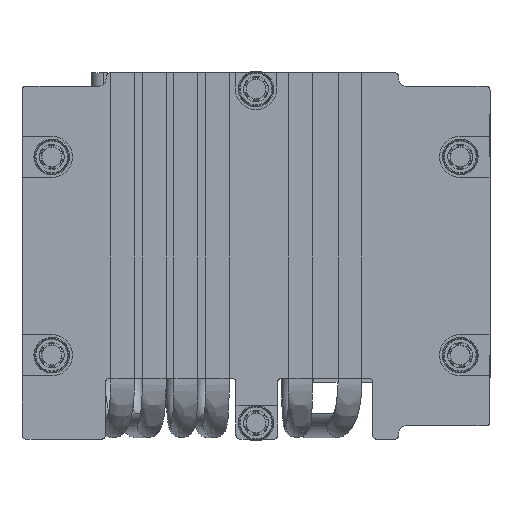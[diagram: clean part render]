
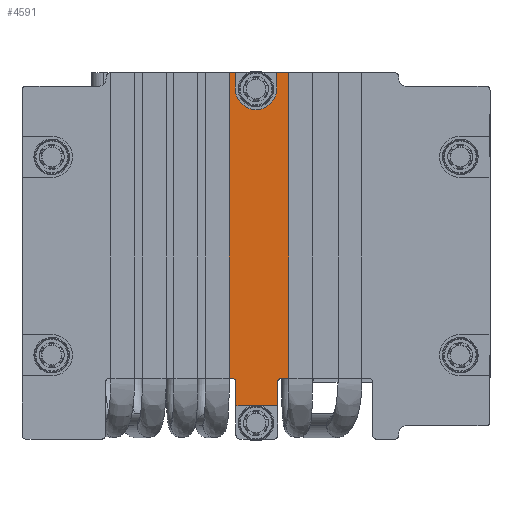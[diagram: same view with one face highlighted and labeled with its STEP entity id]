
A CAD part, front view. The second image highlights one B-rep face of the part: STEP entity #4591.
In plain terms, the highlighted planar face has unit normal (0, -1, 0).
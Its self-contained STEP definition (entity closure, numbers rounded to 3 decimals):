
#950 = ORIENTED_EDGE ( 'NONE', *, *, #14252, .F. ) ;
#951 = CARTESIAN_POINT ( 'NONE',  ( -5.05, 0., -37.72 ) ) ;
#1044 = DIRECTION ( 'NONE',  ( 0., 0., -1. ) ) ;
#1119 = LINE ( 'NONE', #5024, #36862 ) ;
#1161 = VERTEX_POINT ( 'NONE', #31158 ) ;
#1169 = DIRECTION ( 'NONE',  ( 0., 0., 1. ) ) ;
#1564 = CARTESIAN_POINT ( 'NONE',  ( 29.4, 0., -30.8 ) ) ;
#1609 = CARTESIAN_POINT ( 'NONE',  ( -5.05, 0., -30.8 ) ) ;
#1772 = ORIENTED_EDGE ( 'NONE', *, *, #8098, .T. ) ;
#2316 = VERTEX_POINT ( 'NONE', #39050 ) ;
#2779 = ORIENTED_EDGE ( 'NONE', *, *, #21085, .T. ) ;
#3386 = AXIS2_PLACEMENT_3D ( 'NONE', #16805, #28724, #1169 ) ;
#3418 = CARTESIAN_POINT ( 'NONE',  ( -5.05, 0., -46.2 ) ) ;
#3436 = CARTESIAN_POINT ( 'NONE',  ( -5.2, 0., 42.1 ) ) ;
#3973 = LINE ( 'NONE', #20565, #28714 ) ;
#4069 = CARTESIAN_POINT ( 'NONE',  ( -5.05, 0., -37.72 ) ) ;
#4591 = ADVANCED_FACE ( 'NONE', ( #23508 ), #35440, .F. ) ;
#5024 = CARTESIAN_POINT ( 'NONE',  ( 8.25, 0., 46.2 ) ) ;
#5308 = VERTEX_POINT ( 'NONE', #30166 ) ;
#7145 = ORIENTED_EDGE ( 'NONE', *, *, #27786, .T. ) ;
#7352 = LINE ( 'NONE', #4069, #38579 ) ;
#7481 = CARTESIAN_POINT ( 'NONE',  ( 0., 0., 0. ) ) ;
#7584 = ORIENTED_EDGE ( 'NONE', *, *, #25238, .F. ) ;
#7814 = DIRECTION ( 'NONE',  ( 0., -1., 0. ) ) ;
#7942 = AXIS2_PLACEMENT_3D ( 'NONE', #7481, #32370, #23715 ) ;
#8060 = CARTESIAN_POINT ( 'NONE',  ( 5.45, 0., -31.8 ) ) ;
#8098 = EDGE_CURVE ( 'NONE', #30786, #38234, #1119, .T. ) ;
#8744 = VECTOR ( 'NONE', #29320, 1000. ) ;
#10059 = EDGE_CURVE ( 'NONE', #11589, #1161, #3973, .T. ) ;
#10078 = VECTOR ( 'NONE', #31252, 1000. ) ;
#10306 = DIRECTION ( 'NONE',  ( 0., 0., 1. ) ) ;
#10507 = CARTESIAN_POINT ( 'NONE',  ( 0., 0., 42.1 ) ) ;
#10544 = DIRECTION ( 'NONE',  ( 0., 0., -1. ) ) ;
#10634 = DIRECTION ( 'NONE',  ( -1., 0., 0. ) ) ;
#10672 = VERTEX_POINT ( 'NONE', #25828 ) ;
#11032 = CARTESIAN_POINT ( 'NONE',  ( 5.2, 0., 42.1 ) ) ;
#11122 = ORIENTED_EDGE ( 'NONE', *, *, #37925, .F. ) ;
#11589 = VERTEX_POINT ( 'NONE', #22235 ) ;
#11766 = VECTOR ( 'NONE', #37529, 1000. ) ;
#12002 = VERTEX_POINT ( 'NONE', #31383 ) ;
#12329 = CARTESIAN_POINT ( 'NONE',  ( -59., 0., 46.2 ) ) ;
#12717 = ORIENTED_EDGE ( 'NONE', *, *, #15083, .T. ) ;
#12735 = EDGE_CURVE ( 'NONE', #2316, #35227, #22313, .T. ) ;
#12755 = DIRECTION ( 'NONE',  ( 0., -1., 0. ) ) ;
#12809 = DIRECTION ( 'NONE',  ( 0., 1., 0. ) ) ;
#14252 = EDGE_CURVE ( 'NONE', #10672, #38234, #38964, .T. ) ;
#14301 = CARTESIAN_POINT ( 'NONE',  ( 8.25, 0., -30.8 ) ) ;
#14473 = CARTESIAN_POINT ( 'NONE',  ( 5.45, 0., -46.2 ) ) ;
#14841 = VECTOR ( 'NONE', #22413, 1000. ) ;
#15083 = EDGE_CURVE ( 'NONE', #5308, #25940, #23727, .T. ) ;
#16020 = CARTESIAN_POINT ( 'NONE',  ( 8.25, 0., 46.2 ) ) ;
#16371 = ORIENTED_EDGE ( 'NONE', *, *, #31481, .T. ) ;
#16805 = CARTESIAN_POINT ( 'NONE',  ( 6.45, 0., -31.8 ) ) ;
#16839 = VECTOR ( 'NONE', #36251, 1000. ) ;
#17610 = EDGE_CURVE ( 'NONE', #25940, #32007, #33566, .T. ) ;
#18250 = ORIENTED_EDGE ( 'NONE', *, *, #28313, .F. ) ;
#19099 = DIRECTION ( 'NONE',  ( 0., 0., -1. ) ) ;
#20534 = DIRECTION ( 'NONE',  ( 1., 0., 0. ) ) ;
#20565 = CARTESIAN_POINT ( 'NONE',  ( -6.75, 0., 46.2 ) ) ;
#21085 = EDGE_CURVE ( 'NONE', #38856, #12002, #34073, .T. ) ;
#21279 = EDGE_CURVE ( 'NONE', #12002, #38776, #25014, .T. ) ;
#21919 = CARTESIAN_POINT ( 'NONE',  ( 0., 0., 36.9 ) ) ;
#22211 = ORIENTED_EDGE ( 'NONE', *, *, #35897, .F. ) ;
#22235 = CARTESIAN_POINT ( 'NONE',  ( -6.75, 0., 46.2 ) ) ;
#22313 = CIRCLE ( 'NONE', #26234, 5.2 ) ;
#22413 = DIRECTION ( 'NONE',  ( 1., 0., 0. ) ) ;
#22659 = CARTESIAN_POINT ( 'NONE',  ( -6.05, 0., -31.8 ) ) ;
#22958 = DIRECTION ( 'NONE',  ( 0., 0., -1. ) ) ;
#23333 = VECTOR ( 'NONE', #22958, 1000. ) ;
#23508 = FACE_OUTER_BOUND ( 'NONE', #38357, .T. ) ;
#23555 = CARTESIAN_POINT ( 'NONE',  ( -59., 0., 46.2 ) ) ;
#23648 = CIRCLE ( 'NONE', #28220, 5.2 ) ;
#23715 = DIRECTION ( 'NONE',  ( 0., 0., 1. ) ) ;
#23727 = LINE ( 'NONE', #14473, #16839 ) ;
#23734 = VECTOR ( 'NONE', #20534, 1000. ) ;
#25014 = LINE ( 'NONE', #3418, #11766 ) ;
#25238 = EDGE_CURVE ( 'NONE', #5308, #38776, #7352, .T. ) ;
#25269 = VERTEX_POINT ( 'NONE', #11032 ) ;
#25427 = LINE ( 'NONE', #3436, #23333 ) ;
#25485 = LINE ( 'NONE', #40290, #10078 ) ;
#25828 = CARTESIAN_POINT ( 'NONE',  ( 5.2, 0., 46.2 ) ) ;
#25940 = VERTEX_POINT ( 'NONE', #8060 ) ;
#26234 = AXIS2_PLACEMENT_3D ( 'NONE', #37778, #12755, #19099 ) ;
#27348 = VERTEX_POINT ( 'NONE', #33547 ) ;
#27786 = EDGE_CURVE ( 'NONE', #32007, #30786, #33203, .T. ) ;
#28141 = DIRECTION ( 'NONE',  ( 1., 0., 0. ) ) ;
#28220 = AXIS2_PLACEMENT_3D ( 'NONE', #10507, #7814, #1044 ) ;
#28313 = EDGE_CURVE ( 'NONE', #25269, #10672, #25485, .T. ) ;
#28714 = VECTOR ( 'NONE', #10544, 1000. ) ;
#28724 = DIRECTION ( 'NONE',  ( 0., 1., 0. ) ) ;
#29320 = DIRECTION ( 'NONE',  ( 1., 0., 0. ) ) ;
#29771 = LINE ( 'NONE', #1609, #23734 ) ;
#30166 = CARTESIAN_POINT ( 'NONE',  ( 5.45, 0., -37.72 ) ) ;
#30276 = ORIENTED_EDGE ( 'NONE', *, *, #30563, .F. ) ;
#30563 = EDGE_CURVE ( 'NONE', #27348, #2316, #25427, .T. ) ;
#30786 = VERTEX_POINT ( 'NONE', #14301 ) ;
#31158 = CARTESIAN_POINT ( 'NONE',  ( -6.75, 0., -30.8 ) ) ;
#31252 = DIRECTION ( 'NONE',  ( 0., 0., 1. ) ) ;
#31383 = CARTESIAN_POINT ( 'NONE',  ( -5.05, 0., -31.8 ) ) ;
#31481 = EDGE_CURVE ( 'NONE', #1161, #38856, #29771, .T. ) ;
#32007 = VERTEX_POINT ( 'NONE', #35830 ) ;
#32370 = DIRECTION ( 'NONE',  ( 0., 1., 0. ) ) ;
#32982 = DIRECTION ( 'NONE',  ( 0., 0., 1. ) ) ;
#33203 = LINE ( 'NONE', #1564, #8744 ) ;
#33547 = CARTESIAN_POINT ( 'NONE',  ( -5.2, 0., 46.2 ) ) ;
#33566 = CIRCLE ( 'NONE', #3386, 1. ) ;
#34073 = CIRCLE ( 'NONE', #34714, 1. ) ;
#34714 = AXIS2_PLACEMENT_3D ( 'NONE', #22659, #12809, #10306 ) ;
#34881 = VECTOR ( 'NONE', #28141, 1000. ) ;
#35227 = VERTEX_POINT ( 'NONE', #21919 ) ;
#35360 = ORIENTED_EDGE ( 'NONE', *, *, #17610, .T. ) ;
#35440 = PLANE ( 'NONE',  #7942 ) ;
#35830 = CARTESIAN_POINT ( 'NONE',  ( 6.45, 0., -30.8 ) ) ;
#35897 = EDGE_CURVE ( 'NONE', #11589, #27348, #40466, .T. ) ;
#36251 = DIRECTION ( 'NONE',  ( 0., 0., 1. ) ) ;
#36862 = VECTOR ( 'NONE', #32982, 1000. ) ;
#37529 = DIRECTION ( 'NONE',  ( 0., 0., -1. ) ) ;
#37778 = CARTESIAN_POINT ( 'NONE',  ( 0., 0., 42.1 ) ) ;
#37925 = EDGE_CURVE ( 'NONE', #35227, #25269, #23648, .T. ) ;
#38234 = VERTEX_POINT ( 'NONE', #16020 ) ;
#38357 = EDGE_LOOP ( 'NONE', ( #22211, #40012, #16371, #2779, #38385, #7584, #12717, #35360, #7145, #1772, #950, #18250, #11122, #40618, #30276 ) ) ;
#38385 = ORIENTED_EDGE ( 'NONE', *, *, #21279, .T. ) ;
#38579 = VECTOR ( 'NONE', #10634, 1000. ) ;
#38776 = VERTEX_POINT ( 'NONE', #951 ) ;
#38856 = VERTEX_POINT ( 'NONE', #39768 ) ;
#38964 = LINE ( 'NONE', #23555, #14841 ) ;
#39050 = CARTESIAN_POINT ( 'NONE',  ( -5.2, 0., 42.1 ) ) ;
#39768 = CARTESIAN_POINT ( 'NONE',  ( -6.05, 0., -30.8 ) ) ;
#40012 = ORIENTED_EDGE ( 'NONE', *, *, #10059, .T. ) ;
#40290 = CARTESIAN_POINT ( 'NONE',  ( 5.2, 0., 46.2 ) ) ;
#40466 = LINE ( 'NONE', #12329, #34881 ) ;
#40618 = ORIENTED_EDGE ( 'NONE', *, *, #12735, .F. ) ;
